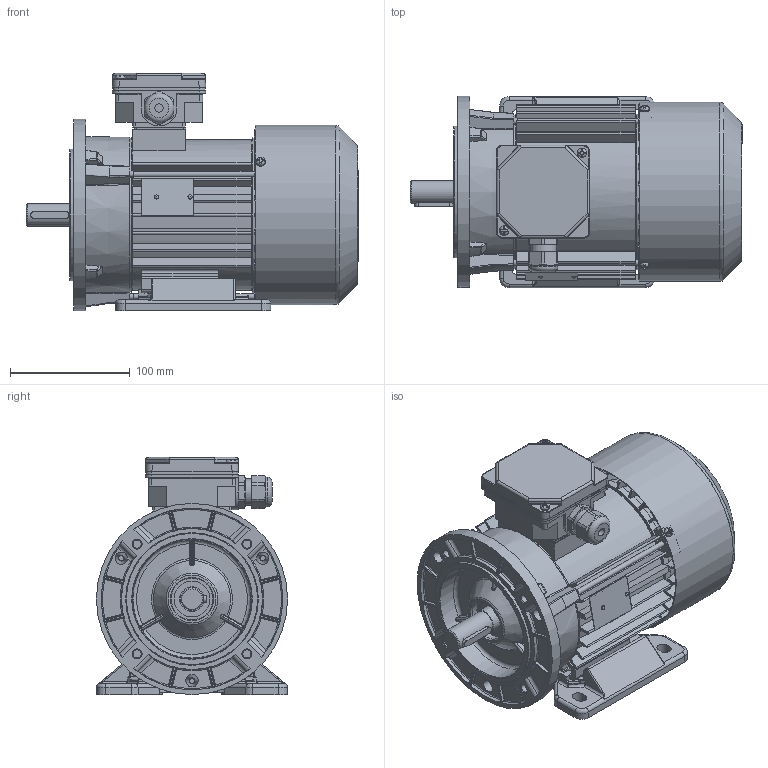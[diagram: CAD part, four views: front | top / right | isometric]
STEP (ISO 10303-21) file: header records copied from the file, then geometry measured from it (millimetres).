
FILE_DESCRIPTION( ( 'Unknown' ), '1' );
FILE_NAME( 'G:/Poczta Tk-1/STP/w.m.80/Sh80/SLh80-.B1.stp', 'Unknown', ( 'K. Szlosek' ), ( 'BESEL S.A.' ), 'PSStep 17.0.49', 'Unknown', ' ' );
FILE_SCHEMA( ( 'AUTOMOTIVE_DESIGN { 1 0 10303 214 1 1 1 1 }' ) );
Length unit declared in the file: millimetre
Products named in the file (30): skrznka zaciskowa trójfazowa ; K4-2820 Uszczelka nr 2 Sh71,80; Dławnica M20x1,5; K2-0859 Podstawa skrzynki 6-cio zaciskowej; K2-0860 Pokrywka skrzynki zaciskowej; Assem1; K1-1257 Kadłub S(E,M)h80-A i B; K3-2964 Osłona przewietrznika Sh80,90; K4-2320 Uszczelka nr 1 Sh71,80; K3-4616 wał standard Sh80-B; K3-6857 Tarcza łożyskowa P S(E,M)h80-B,D; Wkręt samogwintujący M4x8; Wpust A6x6x32; Wkręt samogwintujący M4x16; Nitokołek A 2x6; K3-4025 Przewietrznik Sg,h80; Tabliczka znamionowa 32x44; Łożysko 6204; Śruba ściągająca E_M5x130; K1-1259 Tarcza kołnierzowa 80 B14_1 ; K1-0437 Łapa Sh80-.. 
Assembly tree (45 placements, depth 3):
  Assem1
    K1-1257 Kadłub S(E,M)h80-A i B
    K3-2964 Osłona przewietrznika Sh80,90
    K4-2320 Uszczelka nr 1 Sh71,80
    K3-4616 wał standard Sh80-B
    K3-6857 Tarcza łożyskowa P S(E,M)h80-B,D
    Wkręt samogwintujący M4x8  x3
    Wpust A6x6x32
    Wkręt samogwintujący M4x16  x2
    Nitokołek A 2x6  x2
    K3-4025 Przewietrznik Sg,h80
    Tabliczka znamionowa 32x44
    Łożysko 6204  x2
    Łożysko 6204  x2
    Łożysko 6204  x2
    Łożysko 6204  x2
    Łożysko 6204  x2
    Łożysko 6204  x2
    Łożysko 6204  x2
    Łożysko 6204  x2
    Łożysko 6204  x2
    Łożysko 6204  x2
    Śruba ściągająca E_M5x130  x3
    K1-1259 Tarcza kołnierzowa 80 B14_1 
    K1-0437 Łapa Sh80-.. 
    skrznka zaciskowa trójfazowa 
      K4-2820 Uszczelka nr 2 Sh71,80
      Dławnica M20x1,5
      K2-0859 Podstawa skrzynki 6-cio zaciskowej
      K2-0860 Pokrywka skrzynki zaciskowej
Bounding box: 277.8 x 160 x 198.5 mm (x, y, z)
Volume: 1057561 mm3; surface area: 583968.3 mm2
Topology: 44 solids, 60 shells, 3147 faces, 8455 edges, 5404 vertices
Faces by surface type: plane 1365, cylinder 938, bspline 375, torus 244, cone 181, sphere 44
Full cylindrical faces by diameter (mm): 2 x2, 2.4 x2, 3.7 x11, 4 x6, 4.2 x3, 4.5 x1, 4.6 x3, 4.8 x4, 5 x7, 5.5 x3, 6.5 x4, 6.8 x4, 7 x1, 8 x9, 18.376 x1, 18.38 x1, 19 x1, 19.3 x1, 19.5 x1, 19.9 x1, 20 x3, 20.3 x2, 20.4 x4, 22.3 x1, 25 x1, 25.5 x1, 26 x2, 26.1 x1, 27 x1, 28.802 x4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
Entity records: 185240 total; most frequent: CARTESIAN_POINT 89103, ORIENTED_EDGE 15416, DIRECTION 14240, EDGE_CURVE 7708, AXIS2_PLACEMENT_3D 5334, VERTEX_POINT 5065, LINE 3572, VECTOR 3572
